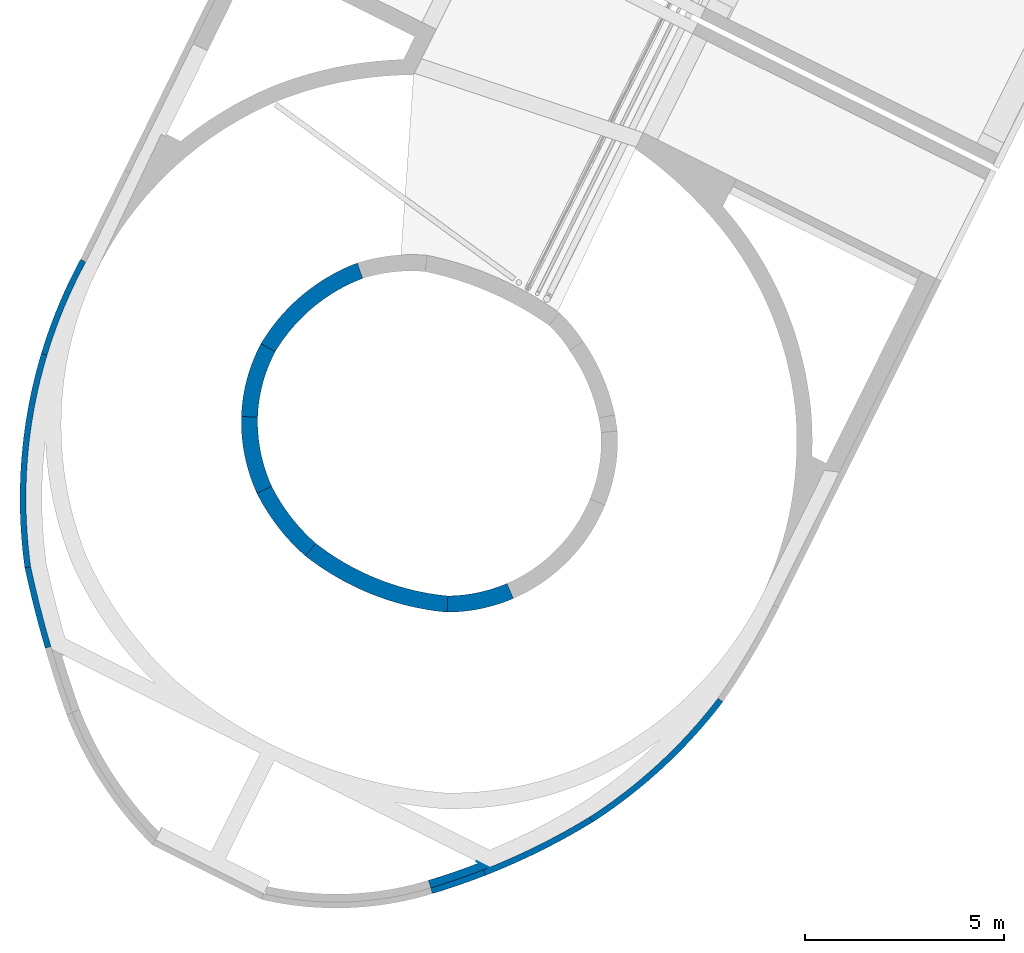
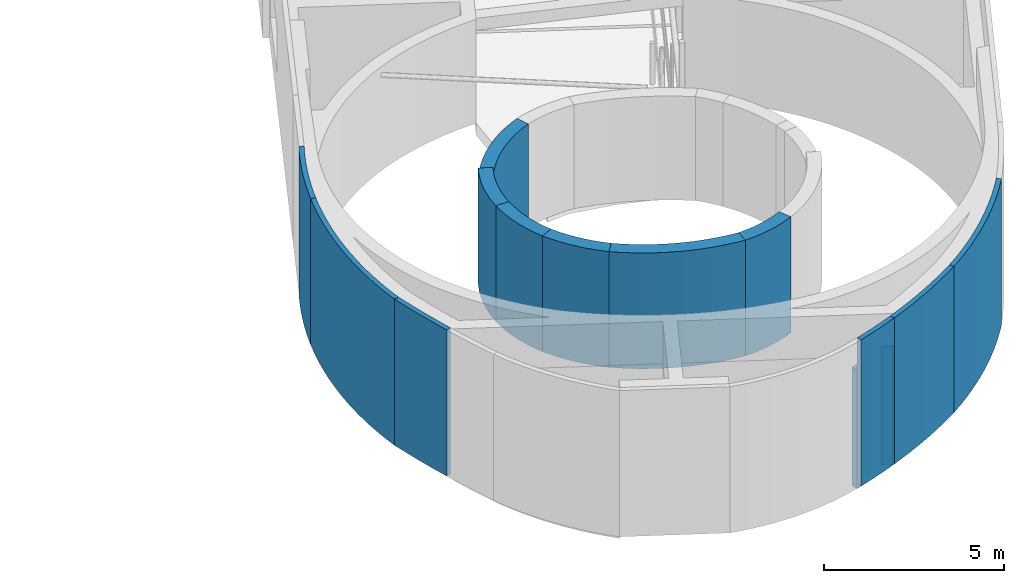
# One storey, part 5 of 47: 14 walls.
"""IFC2X3 building model written with IfcOpenShell, lengths in metres."""

from ifc_helpers import new_model, entity, si_unit, converted_unit, derived_unit, direction, frame, frame_2d, origin, place, context, subcontext, project, spatial, polyline, circle_curve, parameter, trimmed, segment, composite_curve, outline, extrude, material, layer, layer_set, layer_usage, type_object, element, save


model = new_model("IFC2X3")

# Units and contexts
model_context = context("Model", 3, precision=1e-05, world=origin(), true_north=direction((0.894925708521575, 0.446215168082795)))
context_of_model = context(None, 3, precision=1e-05, world=origin(), true_north=direction((0.894925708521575, 0.446215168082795)))
body_context = subcontext(model_context, "Body", "Model", "MODEL_VIEW")
ifc_project = project(units=[si_unit("LENGTHUNIT", "METRE"), si_unit("AREAUNIT", "SQUARE_METRE"), si_unit("VOLUMEUNIT", "CUBIC_METRE"), converted_unit("PLANEANGLEUNIT", "DEGREE", entity("IfcRatioMeasure", 0.0174532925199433), si_unit("PLANEANGLEUNIT", "RADIAN"), dimensions=[0, 0, 0, 0, 0, 0, 0]), si_unit("MASSUNIT", "GRAM", prefix="KILO"), si_unit("TIMEUNIT", "SECOND"), si_unit("FREQUENCYUNIT", "HERTZ"), si_unit("THERMODYNAMICTEMPERATUREUNIT", "DEGREE_CELSIUS"), derived_unit("THERMALTRANSMITTANCEUNIT", [(si_unit("MASSUNIT", "GRAM", prefix="KILO"), 1), (si_unit("THERMODYNAMICTEMPERATUREUNIT", "KELVIN"), -1), (si_unit("TIMEUNIT", "SECOND"), -3)]), derived_unit("VOLUMETRICFLOWRATEUNIT", [(si_unit("LENGTHUNIT", "METRE"), 3), (si_unit("TIMEUNIT", "SECOND"), -1)]), si_unit("ELECTRICCURRENTUNIT", "AMPERE"), si_unit("ELECTRICVOLTAGEUNIT", "VOLT"), si_unit("POWERUNIT", "WATT"), si_unit("FORCEUNIT", "NEWTON", prefix="KILO"), si_unit("ILLUMINANCEUNIT", "LUX"), si_unit("LUMINOUSFLUXUNIT", "LUMEN"), si_unit("LUMINOUSINTENSITYUNIT", "CANDELA"), si_unit("PRESSUREUNIT", "PASCAL")], contexts=[model_context, context_of_model])

# Site, building, storey
site_placement = place(None, frame((218.228324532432, 584.720189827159, 0.0), z_axis=(0.0, 0.0, 1.0), x_axis=(0.446215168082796, 0.894925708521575, 0.0)))
site = spatial("IfcSite", under=ifc_project, at=site_placement, Name="Default", CompositionType="ELEMENT")
building_placement = place(site_placement, origin())
building = spatial("IfcBuilding", under=site, at=building_placement, CompositionType="ELEMENT")
storey_placement = place(building_placement, frame((0.0, 0.0, 4.69)))
storey = spatial("IfcBuildingStorey", under=building, at=storey_placement, Name="1 - Piano Primo", CompositionType="ELEMENT", Elevation=4.69)

# Walls
ifc_material_1 = material(Name="Intonaco - Bianco")
ifc_layer_1 = layer(ifc_material_1, 0.01)
ifc_material_2 = material(Name="Default - Calcestruzzo")
ifc_layer_2 = layer(ifc_material_2, 0.4)
ifc_layer_set_1 = layer_set([ifc_layer_1, ifc_layer_2], Name="Muro di base:Setto CA intonacato int - 41 cm")
ifc_layer_usage_1 = layer_usage(ifc_layer_set_1, "AXIS2", "POSITIVE", -0.205)
wall_type_1 = type_object("IfcWallType", Name="Muro di base:Setto CA intonacato int - 41 cm", PredefinedType="STANDARD", material=ifc_layer_set_1)
wall_1_placement = place(storey_placement, frame((-76.8061652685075, -2.20537846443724, 0.0), z_axis=(0.0, 0.0, 1.0), x_axis=(-0.797882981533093, 0.602812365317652, 0.0)))
element("IfcWallStandardCase", 1, at=wall_1_placement, inside=storey, type_object=wall_type_1, material=ifc_layer_usage_1, Name="Muro di base:Setto CA intonacato int - 41 cm", ObjectType="Muro di base:Setto CA intonacato int - 41 cm", context=body_context, shape_type="SweptSolid", body=[
    extrude(outline(composite_curve([segment(trimmed(circle_curve(frame_2d((-4.52933797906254, -1.87392733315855), x_axis=(1.0, 0.0)), 5.10668401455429), [parameter(0.0652598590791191)], [parameter(22.4763941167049)], True, "PARAMETER"), True, "CONTINUOUS"), segment(polyline([(0.189427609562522, 0.0783720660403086), (-0.185419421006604, -0.088090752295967)]), True, "CONTINUOUS"), segment(trimmed(circle_curve(frame_2d((-4.52933797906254, -1.87392733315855), x_axis=(1.0, 0.0)), 4.69668401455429), [parameter(0.151491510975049)], [parameter(22.3481466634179)], True, "PARAMETER"), False, "CONTINUOUS"), segment(polyline([(0.167329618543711, -1.86150919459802), (0.577342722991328, -1.86811082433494)]), True, "CONTINUOUS")], self_intersect=False)), origin(), (0.0, 0.0, 1.0), 3.92),
])
ifc_layer_usage_2 = layer_usage(ifc_layer_set_1, "AXIS2", "POSITIVE", -0.205)
wall_2_placement = place(storey_placement, frame((-75.9813236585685, -0.495753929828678, 0.0), z_axis=(0.0, 0.0, 1.0), x_axis=(-0.421109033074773, 0.907010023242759, 0.0)))
element("IfcWallStandardCase", 2, at=wall_2_placement, inside=storey, type_object=wall_type_1, material=ifc_layer_usage_2, Name="Muro di base:Setto CA intonacato int - 41 cm", ObjectType="Muro di base:Setto CA intonacato int - 41 cm", context=body_context, shape_type="SweptSolid", body=[
    extrude(outline(composite_curve([segment(trimmed(circle_curve(frame_2d((-3.71366241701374, -1.82101515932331), x_axis=(1.0, 0.0)), 4.34110744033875), [parameter(359.999999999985)], [parameter(26.1212812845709)], True, "PARAMETER"), True, "CONTINUOUS"), segment(polyline([(0.184062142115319, 0.0902559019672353), (-0.180979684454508, -0.0965562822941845)]), True, "CONTINUOUS"), segment(trimmed(circle_curve(frame_2d((-3.71366241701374, -1.82101515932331), x_axis=(1.0, 0.0)), 3.93110744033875), [parameter(0.0229809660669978)], [parameter(26.0190522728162)], True, "PARAMETER"), False, "CONTINUOUS"), segment(polyline([(0.217444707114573, -1.81943841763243), (0.627445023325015, -1.82101515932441)]), True, "CONTINUOUS")], self_intersect=False)), origin(), (0.0, 0.0, 1.0), 3.92),
])
ifc_layer_usage_3 = layer_usage(ifc_layer_set_1, "AXIS2", "POSITIVE", -0.205)
wall_3_placement = place(storey_placement, frame((-74.5089714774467, 0.653595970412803, 0.0), z_axis=(0.0, 0.0, 1.0), x_axis=(0.0272697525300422, 0.999628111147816, 0.0)))
element("IfcWallStandardCase", 3, at=wall_3_placement, inside=storey, type_object=wall_type_1, material=ifc_layer_usage_3, Name="Muro di base:Setto CA intonacato int - 41 cm", ObjectType="Muro di base:Setto CA intonacato int - 41 cm", context=body_context, shape_type="SweptSolid", body=[
    extrude(outline(composite_curve([segment(trimmed(circle_curve(frame_2d((-3.59104673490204, -1.75356267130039), x_axis=(1.0, 0.0)), 4.20132314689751), [parameter(1.26713298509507e-11)], [parameter(26.0269597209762)], True, "PARAMETER"), True, "CONTINUOUS"), segment(polyline([(0.18421047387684, 0.0899527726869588), (-0.183520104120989, -0.0913672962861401)]), True, "CONTINUOUS"), segment(trimmed(circle_curve(frame_2d((-3.59104673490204, -1.75356267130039), x_axis=(1.0, 0.0)), 3.79132314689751), [parameter(0.14633265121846)], [parameter(26.0031728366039)], True, "PARAMETER"), False, "CONTINUOUS"), segment(polyline([(0.200264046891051, -1.74387969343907), (0.610276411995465, -1.75356267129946)]), True, "CONTINUOUS")], self_intersect=False)), origin(), (0.0, 0.0, 1.0), 3.92),
])
ifc_layer_usage_4 = layer_usage(ifc_layer_set_1, "AXIS2", "POSITIVE", -0.205)
wall_4_placement = place(storey_placement, frame((-72.754707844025, 1.0113971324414, 0.0), z_axis=(0.0, 0.0, 1.0), x_axis=(0.67968048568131, 0.733508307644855, 0.0)))
element("IfcWallStandardCase", 4, at=wall_4_placement, inside=storey, type_object=wall_type_1, material=ifc_layer_usage_4, Name="Muro di base:Setto CA intonacato int - 41 cm", ObjectType="Muro di base:Setto CA intonacato int - 41 cm", context=body_context, shape_type="SweptSolid", body=[
    extrude(outline(composite_curve([segment(trimmed(circle_curve(frame_2d((-3.57404597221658, -2.84716007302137), x_axis=(1.0, 0.0)), 4.77447755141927), [parameter(3.40446573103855e-11)], [parameter(38.5415632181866)], True, "PARAMETER"), True, "CONTINUOUS"), segment(polyline([(0.160342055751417, 0.127731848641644), (-0.154278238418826, -0.13536123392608)]), True, "CONTINUOUS"), segment(trimmed(circle_curve(frame_2d((-3.57404597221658, -2.84716007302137), x_axis=(1.0, 0.0)), 4.36447755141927), [parameter(0.147710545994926)], [parameter(38.4136249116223)], True, "PARAMETER"), False, "CONTINUOUS"), segment(polyline([(0.790417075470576, -2.83590830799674), (1.20043157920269, -2.84716007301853)]), True, "CONTINUOUS")], self_intersect=False)), origin(), (0.0, 0.0, 1.0), 3.52),
])
ifc_layer_usage_5 = layer_usage(ifc_layer_set_1, "AXIS2", "POSITIVE", -0.205)
wall_5_placement = place(storey_placement, frame((-75.4992018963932, -7.1415728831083, 0.0), z_axis=(0.0, 0.0, 1.0), x_axis=(-0.892606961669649, -0.45083568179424, 0.0)))
element("IfcWallStandardCase", 5, at=wall_5_placement, inside=storey, type_object=wall_type_1, material=ifc_layer_usage_5, Name="Muro di base:Setto CA intonacato int - 41 cm", ObjectType="Muro di base:Setto CA intonacato int - 41 cm", context=body_context, shape_type="SweptSolid", body=[
    extrude(outline(composite_curve([segment(trimmed(circle_curve(frame_2d((-3.75001635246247, -1.58330388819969), x_axis=(1.0, 0.0)), 4.27556185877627), [parameter(1.02286638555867e-11)], [parameter(22.8900803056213)], True, "PARAMETER"), True, "CONTINUOUS"), segment(polyline([(0.188856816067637, 0.079737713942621), (-0.188578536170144, -0.0803969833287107)]), True, "CONTINUOUS"), segment(trimmed(circle_curve(frame_2d((-3.75001635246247, -1.58330388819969), x_axis=(1.0, 0.0)), 3.86556185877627), [parameter(0.288328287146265)], [parameter(22.8794736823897)], True, "PARAMETER"), False, "CONTINUOUS"), segment(polyline([(0.115496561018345, -1.56385138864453), (0.525545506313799, -1.58330388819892)]), True, "CONTINUOUS")], self_intersect=False)), origin(), (0.0, 0.0, 1.0), 3.92),
])
ifc_layer_usage_6 = layer_usage(ifc_layer_set_1, "AXIS2", "POSITIVE", -0.205)
wall_6_placement = place(storey_placement, frame((-76.4911375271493, -5.89072972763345, 0.0), z_axis=(0.0, 0.0, 1.0), x_axis=(-0.97942685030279, 0.201799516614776, 0.0)))
element("IfcWallStandardCase", 6, at=wall_6_placement, inside=storey, type_object=wall_type_1, material=ifc_layer_usage_6, Name="Muro di base:Setto CA intonacato int - 41 cm", ObjectType="Muro di base:Setto CA intonacato int - 41 cm", context=body_context, shape_type="SweptSolid", body=[
    extrude(outline(composite_curve([segment(trimmed(circle_curve(frame_2d((-5.48595074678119, -3.55652040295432), x_axis=(1.0, 0.0)), 6.74292726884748), [parameter(3.30777686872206e-12)], [parameter(32.9551835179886)], True, "PARAMETER"), True, "CONTINUOUS"), segment(polyline([(0.172014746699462, 0.11151648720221), (-0.161255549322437, -0.128169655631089)]), True, "CONTINUOUS"), segment(trimmed(circle_curve(frame_2d((-5.48595074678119, -3.55652040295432), x_axis=(1.0, 0.0)), 6.33292726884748), [parameter(0.096114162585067)], [parameter(32.7758079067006)], True, "PARAMETER"), False, "CONTINUOUS"), segment(polyline([(0.846967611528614, -3.54589686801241), (1.2569765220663, -3.55652040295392)]), True, "CONTINUOUS")], self_intersect=False)), origin(), (0.0, 0.0, 1.0), 3.92),
])
ifc_material_3 = material(Name="Sabbia e Calcestruzzo")
ifc_layer_3 = layer(ifc_material_3, 0.2)
ifc_layer_set_2 = layer_set([ifc_layer_3], Name="Muro di base:Blocchetti - 20 cm")
ifc_layer_usage_7 = layer_usage(ifc_layer_set_2, "AXIS2", "NEGATIVE", 0.1)
wall_type_2 = type_object("IfcWallType", Name="Muro di base:Blocchetti - 20 cm", PredefinedType="STANDARD", material=ifc_layer_set_2)
wall_7_placement = place(storey_placement, frame((-82.9776991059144, -8.61147981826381, -0.16)))
element("IfcWallStandardCase", 7, at=wall_7_placement, inside=storey, type_object=wall_type_2, material=ifc_layer_usage_7, Name="Muro di base:Blocchetti - 20 cm", ObjectType="Muro di base:Blocchetti - 20 cm", context=body_context, shape_type="SweptSolid", body=[
    extrude(outline(composite_curve([segment(polyline([(0.0729285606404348, 0.0684209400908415), (-0.0724641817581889, -0.068915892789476)]), True, "CONTINUOUS"), segment(trimmed(circle_curve(frame_2d((12.3272083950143, 11.5652794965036), x_axis=(1.0, 0.0)), 17.0031286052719), [parameter(223.175749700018)], [parameter(227.88420157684)], True, "PARAMETER"), True, "CONTINUOUS"), segment(trimmed(circle_curve(frame_2d((12.3272083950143, 11.5652794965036), x_axis=(1.0, 0.0)), 17.0031286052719), [parameter(227.88420157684)], [parameter(228.351917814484)], True, "PARAMETER"), True, "CONTINUOUS"), segment(polyline([(1.02771933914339, -1.14014963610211), (1.02771933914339, -0.87122636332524)]), True, "CONTINUOUS"), segment(trimmed(circle_curve(frame_2d((12.3272083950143, 11.5652794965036), x_axis=(1.0, 0.0)), 16.8031286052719), [parameter(223.173462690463)], [parameter(227.742522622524)], True, "PARAMETER"), False, "CONTINUOUS")], self_intersect=False)), origin(), (0.0, 0.0, 1.0), 4.02),
])
ifc_material_4 = material(Name="Alluminio")
ifc_layer_4 = layer(ifc_material_4, 0.15)
ifc_layer_set_3 = layer_set([ifc_layer_4], Name="Muro di base:Rivestimento 15 cm")
ifc_layer_usage_8 = layer_usage(ifc_layer_set_3, "AXIS2", "POSITIVE", -0.075)
wall_type_3 = type_object("IfcWallType", Name="Muro di base:Rivestimento 15 cm", PredefinedType="STANDARD", material=ifc_layer_set_3)
wall_8_placement = place(storey_placement, frame((-75.5935269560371, -13.0787855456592, 0.0)))
element("IfcWallStandardCase", 8, at=wall_8_placement, inside=storey, type_object=wall_type_3, material=ifc_layer_usage_8, Name="Muro di base:Rivestimento 15 cm", ObjectType="Muro di base:Rivestimento 15 cm", context=body_context, shape_type="SweptSolid", body=[
    extrude(outline(composite_curve([segment(trimmed(circle_curve(frame_2d((2.39534957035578, 12.5609580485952), x_axis=(1.0, 0.0)), 12.8623127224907), [parameter(239.313352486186)], [parameter(259.203438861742)], True, "PARAMETER"), True, "CONTINUOUS"), segment(polyline([(-0.0140491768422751, -0.0736723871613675), (0.0106827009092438, 0.0743148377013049)]), True, "CONTINUOUS"), segment(trimmed(circle_curve(frame_2d((2.39534957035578, 12.5609580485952), x_axis=(1.0, 0.0)), 12.7123127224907), [parameter(239.321609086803)], [parameter(259.18799196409)], True, "PARAMETER"), False, "CONTINUOUS"), segment(polyline([(-4.0907086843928, 1.62780008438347), (-4.16883551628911, 1.49973918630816)]), True, "CONTINUOUS")], self_intersect=False)), origin(), (0.0, 0.0, 1.0), 4.95),
])
ifc_layer_usage_9 = layer_usage(ifc_layer_set_3, "AXIS2", "POSITIVE", -0.075)
wall_9_placement = place(storey_placement, frame((-79.7225219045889, -11.5155032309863, 0.0)))
element("IfcWallStandardCase", 9, at=wall_9_placement, inside=storey, type_object=wall_type_3, material=ifc_layer_usage_9, Name="Muro di base:Rivestimento 15 cm", ObjectType="Muro di base:Rivestimento 15 cm", context=body_context, shape_type="SweptSolid", body=[
    extrude(outline(composite_curve([segment(polyline([(-0.0398405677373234, -0.0635431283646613), (0.0382862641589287, 0.0645177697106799)]), True, "CONTINUOUS"), segment(trimmed(circle_curve(frame_2d((9.07203119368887, 14.4693029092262), x_axis=(1.0, 0.0)), 17.0031286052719), [parameter(228.351917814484)], [parameter(237.906736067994)], True, "PARAMETER"), False, "CONTINUOUS"), segment(trimmed(circle_curve(frame_2d((9.07203119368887, 14.4693029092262), x_axis=(1.0, 0.0)), 17.0031286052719), [parameter(227.88420157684)], [parameter(228.351917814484)], True, "PARAMETER"), False, "CONTINUOUS"), segment(polyline([(-2.33079703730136, 1.85653593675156), (-2.43139171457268, 1.74526729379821)]), True, "CONTINUOUS"), segment(trimmed(circle_curve(frame_2d((9.07203119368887, 14.4693029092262), x_axis=(1.0, 0.0)), 17.1531286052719), [parameter(227.884201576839)], [parameter(237.91291818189)], True, "PARAMETER"), True, "CONTINUOUS")], self_intersect=False)), origin(), (0.0, 0.0, 1.0), 4.95),
])
ifc_layer_usage_10 = layer_usage(ifc_layer_set_3, "AXIS2", "POSITIVE", -0.075)
wall_10_placement = place(storey_placement, frame((-82.1036162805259, -9.7146016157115, 0.0)))
element("IfcWallStandardCase", 10, at=wall_10_placement, inside=storey, type_object=wall_type_3, material=ifc_layer_usage_10, Name="Muro di base:Rivestimento 15 cm", ObjectType="Muro di base:Rivestimento 15 cm", context=body_context, shape_type="SweptSolid", body=[
    extrude(outline(composite_curve([segment(polyline([(-0.0502973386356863, -0.0556343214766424), (0.050297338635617, 0.0556343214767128)]), True, "CONTINUOUS"), segment(trimmed(circle_curve(frame_2d((11.4531255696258, 12.6684012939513), x_axis=(1.0, 0.0)), 17.0031286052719), [parameter(223.175749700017)], [parameter(227.88420157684)], True, "PARAMETER"), False, "CONTINUOUS"), segment(polyline([(-0.946547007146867, 1.03420590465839), (-1.05559351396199, 0.931205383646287)]), True, "CONTINUOUS"), segment(trimmed(circle_curve(frame_2d((11.4531255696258, 12.6684012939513), x_axis=(1.0, 0.0)), 17.1531286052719), [parameter(223.17742037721)], [parameter(227.884201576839)], True, "PARAMETER"), True, "CONTINUOUS")], self_intersect=False)), origin(), (0.0, 0.0, 1.0), 4.95),
])
ifc_layer_usage_11 = layer_usage(ifc_layer_set_3, "AXIS2", "POSITIVE", -0.075)
wall_11_placement = place(storey_placement, frame((-80.3649770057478, 3.94526626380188, 0.0)))
element("IfcWallStandardCase", 11, at=wall_11_placement, inside=storey, type_object=wall_type_3, material=ifc_layer_usage_11, Name="Muro di base:Rivestimento 15 cm", ObjectType="Muro di base:Rivestimento 15 cm", context=body_context, shape_type="SweptSolid", body=[
    extrude(outline(composite_curve([segment(trimmed(circle_curve(frame_2d((7.0799428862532, -10.3259398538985), x_axis=(1.0, 0.0)), 12.5950089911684), [parameter(99.7306006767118)], [parameter(124.436341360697)], True, "PARAMETER"), True, "CONTINUOUS"), segment(polyline([(-0.0424117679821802, 0.061856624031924), (0.047000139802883, -0.0587121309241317)]), True, "CONTINUOUS"), segment(trimmed(circle_curve(frame_2d((7.0799428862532, -10.3259398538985), x_axis=(1.0, 0.0)), 12.4450089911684), [parameter(99.7306006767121)], [parameter(124.410732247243)], True, "PARAMETER"), False, "CONTINUOUS"), segment(polyline([(4.97653970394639, 1.9400270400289), (4.9511873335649, 2.0878690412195)]), True, "CONTINUOUS")], self_intersect=False)), origin(), (0.0, 0.0, 1.0), 4.95),
])
ifc_layer_usage_12 = layer_usage(ifc_layer_set_3, "AXIS2", "POSITIVE", -0.075)
wall_12_placement = place(storey_placement, frame((-81.9349797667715, 2.59457218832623, 0.0)))
element("IfcWallStandardCase", 12, at=wall_12_placement, inside=storey, type_object=wall_type_3, material=ifc_layer_usage_12, Name="Muro di base:Rivestimento 15 cm", ObjectType="Muro di base:Rivestimento 15 cm", context=body_context, shape_type="SweptSolid", body=[
    extrude(outline(composite_curve([segment(trimmed(circle_curve(frame_2d((20.1392384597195, -21.825943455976), x_axis=(1.0, 0.0)), 29.7728237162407), [parameter(128.691143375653)], [parameter(132.698351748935)], True, "PARAMETER"), True, "CONTINUOUS"), segment(polyline([(-0.0508603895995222, 0.0551200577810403), (0.0508603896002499, -0.0551200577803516)]), True, "CONTINUOUS"), segment(trimmed(circle_curve(frame_2d((20.1392384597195, -21.825943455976), x_axis=(1.0, 0.0)), 29.6228237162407), [parameter(128.701939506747)], [parameter(132.698351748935)], True, "PARAMETER"), False, "CONTINUOUS"), segment(polyline([(1.61700290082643, 1.29198194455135), (1.52759099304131, 1.41255069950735)]), True, "CONTINUOUS")], self_intersect=False)), origin(), (0.0, 0.0, 1.0), 4.95),
])
ifc_layer_usage_13 = layer_usage(ifc_layer_set_3, "AXIS2", "POSITIVE", -0.075)
wall_13_placement = place(storey_placement, frame((-75.4011134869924, 5.95921430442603, 0.0)))
element("IfcWallStandardCase", 13, at=wall_13_placement, inside=storey, type_object=wall_type_3, material=ifc_layer_usage_13, Name="Muro di base:Rivestimento 15 cm", ObjectType="Muro di base:Rivestimento 15 cm", context=body_context, shape_type="SweptSolid", body=[
    extrude(outline(composite_curve([segment(trimmed(circle_curve(frame_2d((2.11607936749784, -12.3398878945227), x_axis=(1.0, 0.0)), 12.5950089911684), [parameter(88.0927351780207)], [parameter(99.7306006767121)], True, "PARAMETER"), True, "CONTINUOUS"), segment(polyline([(-0.0126761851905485, 0.0739210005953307), (0.0126761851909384, -0.0739210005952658)]), True, "CONTINUOUS"), segment(trimmed(circle_curve(frame_2d((2.11607936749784, -12.3398878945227), x_axis=(1.0, 0.0)), 12.4450089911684), [parameter(88.0794937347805)], [parameter(99.7306006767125)], True, "PARAMETER"), False, "CONTINUOUS"), segment(polyline([(2.53314747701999, 0.0981305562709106), (2.53526524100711, 0.248143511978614)]), True, "CONTINUOUS")], self_intersect=False)), origin(), (0.0, 0.0, 1.0), 4.95),
])
ifc_layer_5 = layer(ifc_material_1, 0.01)
ifc_layer_set_4 = layer_set([ifc_layer_5], Name="Muro di base:Intonaco int 1 cm")
ifc_layer_usage_14 = layer_usage(ifc_layer_set_4, "AXIS2", "NEGATIVE", 0.00500000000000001)
wall_type_4 = type_object("IfcWallType", Name="Muro di base:Intonaco int 1 cm", PredefinedType="STANDARD", material=ifc_layer_set_4)
wall_14_placement = place(storey_placement, frame((-81.944979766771, -9.41493713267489, -0.16), z_axis=(0.0, 0.0, 1.0), x_axis=(0.0, -1.0, 0.0)))
element("IfcWallStandardCase", 14, at=wall_14_placement, inside=storey, type_object=wall_type_4, material=ifc_layer_usage_14, Name="Muro di base:Intonaco int 1 cm", ObjectType="Muro di base:Intonaco int 1 cm", context=body_context, shape_type="SweptSolid", body=[
    extrude(outline(composite_curve([segment(trimmed(circle_curve(frame_2d((-12.3687368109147, 11.2944890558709), x_axis=(0.0, 1.0)), 17.0031286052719), [parameter(228.351917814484)], [parameter(228.396997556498)], True, "PARAMETER"), True, "CONTINUOUS"), segment(polyline([(0.345578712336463, 0.00499999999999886), (0.0, 0.00499999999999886)]), True, "CONTINUOUS"), segment(polyline([(0.0, 0.00499999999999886), (0.0, -0.00499999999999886)]), True, "CONTINUOUS"), segment(polyline([(0.0, -0.00499999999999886), (0.0677690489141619, -0.00499999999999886)]), True, "CONTINUOUS"), segment(polyline([(0.0677690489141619, -0.00499999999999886), (0.3366923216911, -0.00499999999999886)]), True, "CONTINUOUS")], self_intersect=False)), origin(), (0.0, 0.0, 1.0), 4.02),
])

save(model, "model.ifc")
